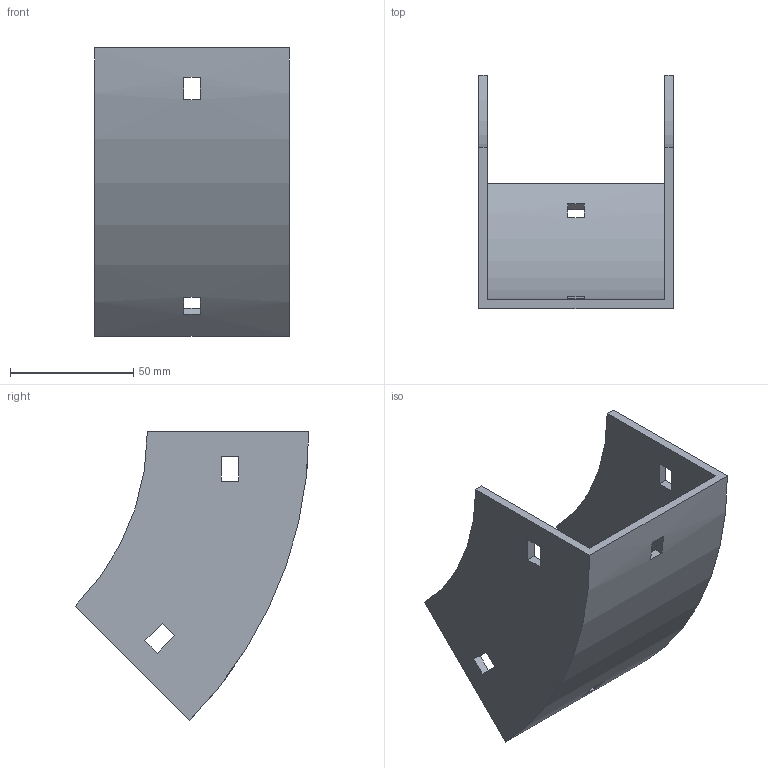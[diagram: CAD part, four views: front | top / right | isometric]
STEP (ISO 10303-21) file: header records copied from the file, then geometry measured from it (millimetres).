
FILE_DESCRIPTION (( 'STEP AP214' ), '1' );
FILE_NAME ('31B1H075.step', '2025-02-21T09:47:01', ( '' ), ( '' ), 'SwSTEP 2.0', 'SolidWorks 2023', '' );
FILE_SCHEMA (( 'AUTOMOTIVE_DESIGN' ));
Length unit declared in the file: millimetre
Products named in the file (1): 31B1H075
Bounding box: 79 x 94.79 x 117.03 mm (x, y, z)
Volume: 78821.8 mm3; surface area: 47715.6 mm2
Topology: 1 solids, 1 shells, 34 faces, 96 edges, 64 vertices
Faces by surface type: plane 30, cylinder 4
Entity records: 1143 total; most frequent: CARTESIAN_POINT 195, ORIENTED_EDGE 192, DIRECTION 182, EDGE_CURVE 96, LINE 80, VECTOR 80, VERTEX_POINT 64, AXIS2_PLACEMENT_3D 51
